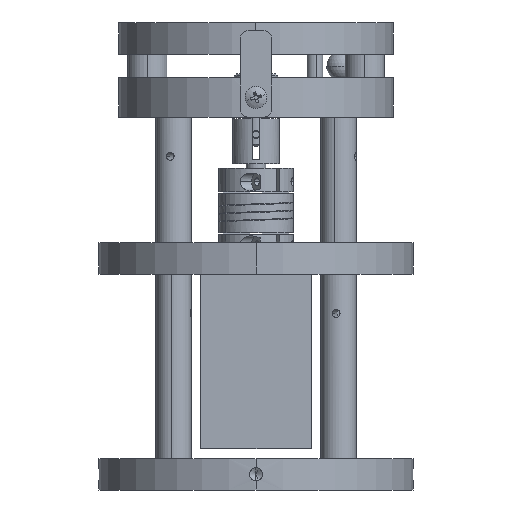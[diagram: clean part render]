
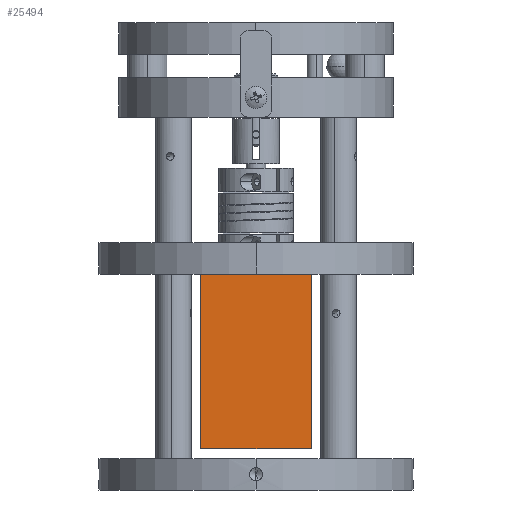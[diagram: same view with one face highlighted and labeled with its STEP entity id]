
A CAD part, left-side view. The second image highlights one B-rep face of the part: STEP entity #25494.
In plain terms, the highlighted planar face has unit normal (-1, 0, 0).
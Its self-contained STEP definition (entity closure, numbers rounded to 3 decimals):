
#1285 = LINE ( 'NONE', #10398, #16119 ) ;
#3647 = ORIENTED_EDGE ( 'NONE', *, *, #32473, .T. ) ;
#4920 = DIRECTION ( 'NONE',  ( 0., 0., 1. ) ) ;
#6360 = ORIENTED_EDGE ( 'NONE', *, *, #34428, .F. ) ;
#8371 = CARTESIAN_POINT ( 'NONE',  ( -36.1, -14.1, 6.5 ) ) ;
#8800 = ORIENTED_EDGE ( 'NONE', *, *, #30148, .F. ) ;
#10398 = CARTESIAN_POINT ( 'NONE',  ( -36.1, -14.1, 6.5 ) ) ;
#10509 = CARTESIAN_POINT ( 'NONE',  ( -36.1, 14.1, 6.5 ) ) ;
#11135 = DIRECTION ( 'NONE',  ( 0., -1., 0. ) ) ;
#15129 = EDGE_LOOP ( 'NONE', ( #8800, #6360, #3647, #35521 ) ) ;
#16119 = VECTOR ( 'NONE', #31934, 1000. ) ;
#17291 = LINE ( 'NONE', #30378, #33093 ) ;
#17754 = CARTESIAN_POINT ( 'NONE',  ( -36.1, -14.1, 51. ) ) ;
#18031 = VECTOR ( 'NONE', #11135, 1000. ) ;
#18458 = VERTEX_POINT ( 'NONE', #10509 ) ;
#19515 = VECTOR ( 'NONE', #4920, 1000. ) ;
#20407 = VERTEX_POINT ( 'NONE', #36819 ) ;
#21130 = DIRECTION ( 'NONE',  ( 0., -1., 0. ) ) ;
#21709 = VERTEX_POINT ( 'NONE', #17754 ) ;
#24137 = VERTEX_POINT ( 'NONE', #8371 ) ;
#25494 = ADVANCED_FACE ( 'NONE', ( #29784 ), #25761, .T. ) ;
#25761 = PLANE ( 'NONE',  #34743 ) ;
#26612 = LINE ( 'NONE', #29451, #18031 ) ;
#29451 = CARTESIAN_POINT ( 'NONE',  ( -36.1, -14.1, 51. ) ) ;
#29784 = FACE_OUTER_BOUND ( 'NONE', #15129, .T. ) ;
#30148 = EDGE_CURVE ( 'NONE', #20407, #21709, #26612, .T. ) ;
#30378 = CARTESIAN_POINT ( 'NONE',  ( -36.1, -14.1, 6.5 ) ) ;
#31079 = EDGE_CURVE ( 'NONE', #24137, #21709, #1285, .T. ) ;
#31934 = DIRECTION ( 'NONE',  ( 0., 0., 1. ) ) ;
#32473 = EDGE_CURVE ( 'NONE', #18458, #24137, #17291, .T. ) ;
#33093 = VECTOR ( 'NONE', #21130, 1000. ) ;
#34428 = EDGE_CURVE ( 'NONE', #18458, #20407, #35819, .T. ) ;
#34488 = CARTESIAN_POINT ( 'NONE',  ( -36.1, -14.1, 6.5 ) ) ;
#34743 = AXIS2_PLACEMENT_3D ( 'NONE', #34488, #37965, #34896 ) ;
#34896 = DIRECTION ( 'NONE',  ( 0., -1., 0. ) ) ;
#35315 = CARTESIAN_POINT ( 'NONE',  ( -36.1, 14.1, 6.5 ) ) ;
#35521 = ORIENTED_EDGE ( 'NONE', *, *, #31079, .T. ) ;
#35819 = LINE ( 'NONE', #35315, #19515 ) ;
#36819 = CARTESIAN_POINT ( 'NONE',  ( -36.1, 14.1, 51. ) ) ;
#37965 = DIRECTION ( 'NONE',  ( -1., 0., 0. ) ) ;
